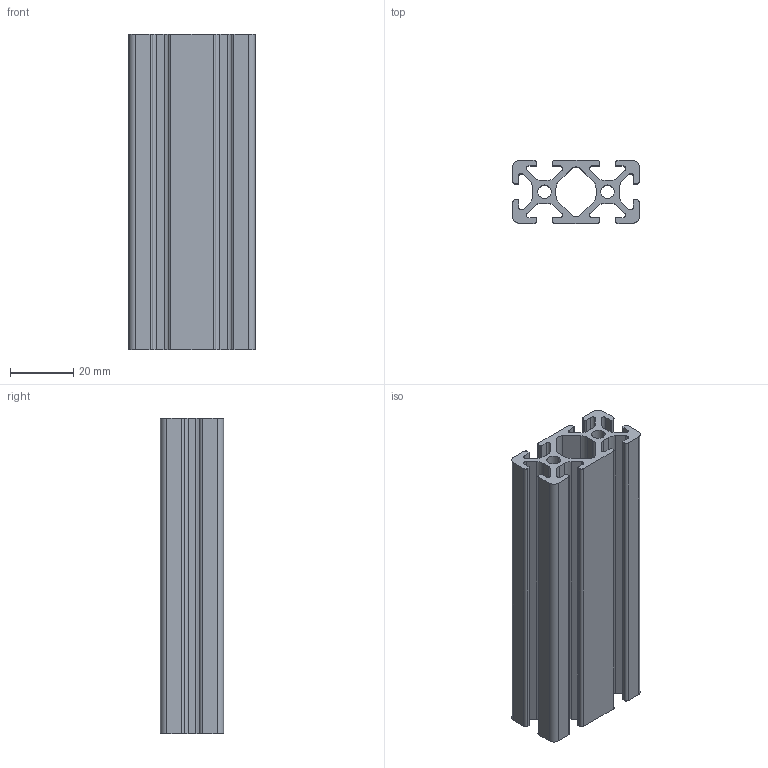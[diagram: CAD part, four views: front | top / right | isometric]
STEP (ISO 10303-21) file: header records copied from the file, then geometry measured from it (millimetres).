
FILE_DESCRIPTION(('FreeCAD Model'),'2;1');
FILE_NAME('Open CASCADE Shape Model','2021-05-05T10:10:07',('Author'),( ''),'Open CASCADE STEP processor 7.5','FreeCAD','Unknown');
FILE_SCHEMA(('AUTOMOTIVE_DESIGN { 1 0 10303 214 1 1 1 1 }'));
Length unit declared in the file: millimetre
Products named in the file (1): IR 20X40 IR37004
Bounding box: 40 x 20 x 100 mm (x, y, z)
Volume: 33169.9 mm3; surface area: 31197.4 mm2
Topology: 1 solids, 1 shells, 126 faces, 372 edges, 248 vertices
Faces by surface type: cylinder 66, plane 60
Entity records: 9286 total; most frequent: CARTESIAN_POINT 1827, DIRECTION 1446, LINE 852, VECTOR 852, ORIENTED_EDGE 744, PCURVE 744, DEFINITIONAL_REPRESENTATION 744, EDGE_CURVE 372
